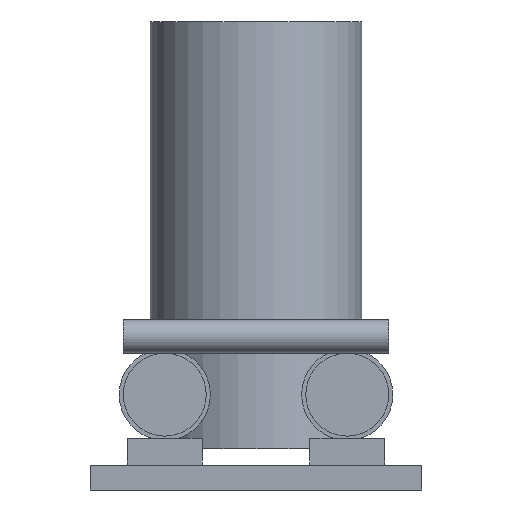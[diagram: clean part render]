
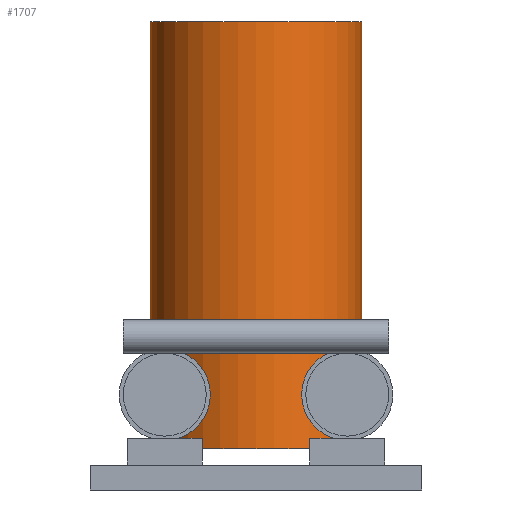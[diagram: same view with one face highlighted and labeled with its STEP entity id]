
A CAD part, left-side view. The second image highlights one B-rep face of the part: STEP entity #1707.
In plain terms, the highlighted cylindrical face has radius 255 mm (diameter 510 mm), a full revolution.
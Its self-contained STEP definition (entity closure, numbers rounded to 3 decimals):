
#1707 = ADVANCED_FACE('',(#1708),#1722,.T.);
#1708 = FACE_BOUND('',#1709,.F.);
#1709 = EDGE_LOOP('',(#1710,#1740,#1767,#1768));
#1710 = ORIENTED_EDGE('',*,*,#1711,.T.);
#1711 = EDGE_CURVE('',#1712,#1714,#1716,.T.);
#1712 = VERTEX_POINT('',#1713);
#1713 = CARTESIAN_POINT('',(675.,0.,100.));
#1714 = VERTEX_POINT('',#1715);
#1715 = CARTESIAN_POINT('',(675.,0.,1128.592));
#1716 = SEAM_CURVE('',#1717,(#1721,#1733),.PCURVE_S1.);
#1717 = LINE('',#1718,#1719);
#1718 = CARTESIAN_POINT('',(675.,0.,100.));
#1719 = VECTOR('',#1720,1.);
#1720 = DIRECTION('',(0.,0.,1.));
#1721 = PCURVE('',#1722,#1727);
#1722 = CYLINDRICAL_SURFACE('',#1723,255.);
#1723 = AXIS2_PLACEMENT_3D('',#1724,#1725,#1726);
#1724 = CARTESIAN_POINT('',(420.,0.,100.));
#1725 = DIRECTION('',(-0.,-0.,-1.));
#1726 = DIRECTION('',(1.,0.,0.));
#1727 = DEFINITIONAL_REPRESENTATION('',(#1728),#1732);
#1728 = LINE('',#1729,#1730);
#1729 = CARTESIAN_POINT('',(-0.,0.));
#1730 = VECTOR('',#1731,1.);
#1731 = DIRECTION('',(-0.,-1.));
#1732 = ( GEOMETRIC_REPRESENTATION_CONTEXT(2) 
PARAMETRIC_REPRESENTATION_CONTEXT() REPRESENTATION_CONTEXT('2D SPACE',''
  ) );
#1733 = PCURVE('',#1722,#1734);
#1734 = DEFINITIONAL_REPRESENTATION('',(#1735),#1739);
#1735 = LINE('',#1736,#1737);
#1736 = CARTESIAN_POINT('',(-6.283,0.));
#1737 = VECTOR('',#1738,1.);
#1738 = DIRECTION('',(-0.,-1.));
#1739 = ( GEOMETRIC_REPRESENTATION_CONTEXT(2) 
PARAMETRIC_REPRESENTATION_CONTEXT() REPRESENTATION_CONTEXT('2D SPACE',''
  ) );
#1740 = ORIENTED_EDGE('',*,*,#1741,.T.);
#1741 = EDGE_CURVE('',#1714,#1714,#1742,.T.);
#1742 = SURFACE_CURVE('',#1743,(#1748,#1755),.PCURVE_S1.);
#1743 = CIRCLE('',#1744,255.);
#1744 = AXIS2_PLACEMENT_3D('',#1745,#1746,#1747);
#1745 = CARTESIAN_POINT('',(420.,0.,1128.592));
#1746 = DIRECTION('',(0.,0.,1.));
#1747 = DIRECTION('',(1.,0.,0.));
#1748 = PCURVE('',#1722,#1749);
#1749 = DEFINITIONAL_REPRESENTATION('',(#1750),#1754);
#1750 = LINE('',#1751,#1752);
#1751 = CARTESIAN_POINT('',(-0.,-1028.592));
#1752 = VECTOR('',#1753,1.);
#1753 = DIRECTION('',(-1.,0.));
#1754 = ( GEOMETRIC_REPRESENTATION_CONTEXT(2) 
PARAMETRIC_REPRESENTATION_CONTEXT() REPRESENTATION_CONTEXT('2D SPACE',''
  ) );
#1755 = PCURVE('',#1756,#1761);
#1756 = PLANE('',#1757);
#1757 = AXIS2_PLACEMENT_3D('',#1758,#1759,#1760);
#1758 = CARTESIAN_POINT('',(420.,0.,1128.592)
  );
#1759 = DIRECTION('',(0.,0.,1.));
#1760 = DIRECTION('',(1.,0.,-0.));
#1761 = DEFINITIONAL_REPRESENTATION('',(#1762),#1766);
#1762 = CIRCLE('',#1763,255.);
#1763 = AXIS2_PLACEMENT_2D('',#1764,#1765);
#1764 = CARTESIAN_POINT('',(0.,0.));
#1765 = DIRECTION('',(1.,0.));
#1766 = ( GEOMETRIC_REPRESENTATION_CONTEXT(2) 
PARAMETRIC_REPRESENTATION_CONTEXT() REPRESENTATION_CONTEXT('2D SPACE',''
  ) );
#1767 = ORIENTED_EDGE('',*,*,#1711,.F.);
#1768 = ORIENTED_EDGE('',*,*,#1769,.F.);
#1769 = EDGE_CURVE('',#1712,#1712,#1770,.T.);
#1770 = SURFACE_CURVE('',#1771,(#1776,#1783),.PCURVE_S1.);
#1771 = CIRCLE('',#1772,255.);
#1772 = AXIS2_PLACEMENT_3D('',#1773,#1774,#1775);
#1773 = CARTESIAN_POINT('',(420.,0.,100.));
#1774 = DIRECTION('',(0.,0.,1.));
#1775 = DIRECTION('',(1.,0.,0.));
#1776 = PCURVE('',#1722,#1777);
#1777 = DEFINITIONAL_REPRESENTATION('',(#1778),#1782);
#1778 = LINE('',#1779,#1780);
#1779 = CARTESIAN_POINT('',(-0.,0.));
#1780 = VECTOR('',#1781,1.);
#1781 = DIRECTION('',(-1.,0.));
#1782 = ( GEOMETRIC_REPRESENTATION_CONTEXT(2) 
PARAMETRIC_REPRESENTATION_CONTEXT() REPRESENTATION_CONTEXT('2D SPACE',''
  ) );
#1783 = PCURVE('',#1784,#1789);
#1784 = PLANE('',#1785);
#1785 = AXIS2_PLACEMENT_3D('',#1786,#1787,#1788);
#1786 = CARTESIAN_POINT('',(420.,0.,100.));
#1787 = DIRECTION('',(0.,0.,1.));
#1788 = DIRECTION('',(1.,0.,-0.));
#1789 = DEFINITIONAL_REPRESENTATION('',(#1790),#1794);
#1790 = CIRCLE('',#1791,255.);
#1791 = AXIS2_PLACEMENT_2D('',#1792,#1793);
#1792 = CARTESIAN_POINT('',(0.,0.));
#1793 = DIRECTION('',(1.,0.));
#1794 = ( GEOMETRIC_REPRESENTATION_CONTEXT(2) 
PARAMETRIC_REPRESENTATION_CONTEXT() REPRESENTATION_CONTEXT('2D SPACE',''
  ) );
